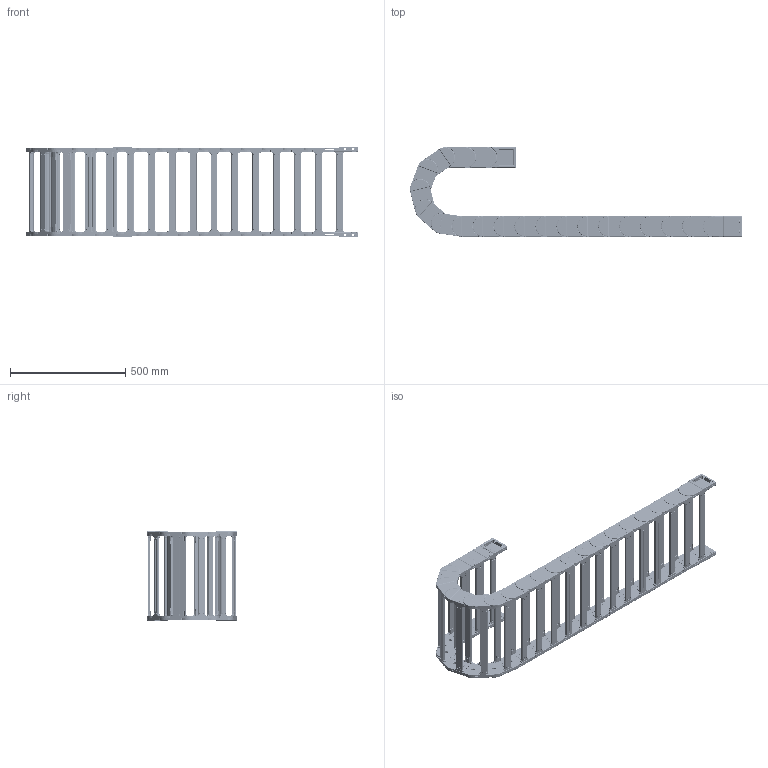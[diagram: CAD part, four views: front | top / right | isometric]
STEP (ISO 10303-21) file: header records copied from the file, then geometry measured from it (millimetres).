
FILE_DESCRIPTION (( 'STEP AP214' ), '1' );
FILE_NAME ('J60Q.1.350S-3D賦凳芞.STEP', '2019-01-10T01:21:24', ( 'Sky123.Org' ), ( 'Sky123.Org' ), 'SwSTEP 2.0', 'SolidWorks 2017', '' );
FILE_SCHEMA (( 'AUTOMOTIVE_DESIGN' ));
Length unit declared in the file: millimetre
Products named in the file (10): J60Q.1.100S-桥式-外接头; J60Q.1-源諉芛-W; J60Q.1.100S-桥式-内接头; 臏簽12X9; J60Q.1-源諉芛-N; J60Q.1.100S-桥式-单节主体; J60-H80-100結え; J60Q.1-翋极-R-2018.3.30; J60Q.1-翋极-L-2018.3.30; J60Q.1.350S-3D賦凳芞
Assembly tree (57 placements, depth 3):
  J60Q.1.350S-3D賦凳芞
    J60Q.1.100S-桥式-单节主体  x19
      J60Q.1-翋极-L-2018.3.30
      J60Q.1-翋极-R-2018.3.30
      J60-H80-100結え
    J60Q.1.100S-桥式-内接头
      J60Q.1-源諉芛-N  x2
      J60-H80-100結え  x2
      臏簽12X9  x12
    J60Q.1.100S-桥式-外接头
      J60Q.1-源諉芛-W  x2
      J60-H80-100結え  x2
      臏簽12X9  x12
Bounding box: 1442.11 x 388.53 x 390 mm (x, y, z)
Volume: 10070879.2 mm3; surface area: 3073625.6 mm2
Topology: 108 solids, 148 shells, 19975 faces, 52506 edges, 33104 vertices
Faces by surface type: plane 9891, cylinder 6288, bspline 1518, torus 1288, sphere 778, cone 212
Entity records: 36164 total; most frequent: CARTESIAN_POINT 8515, ORIENTED_EDGE 4950, DIRECTION 4876, EDGE_CURVE 2475, AXIS2_PLACEMENT_3D 1648, VERTEX_POINT 1583, VECTOR 1580, LINE 1580
